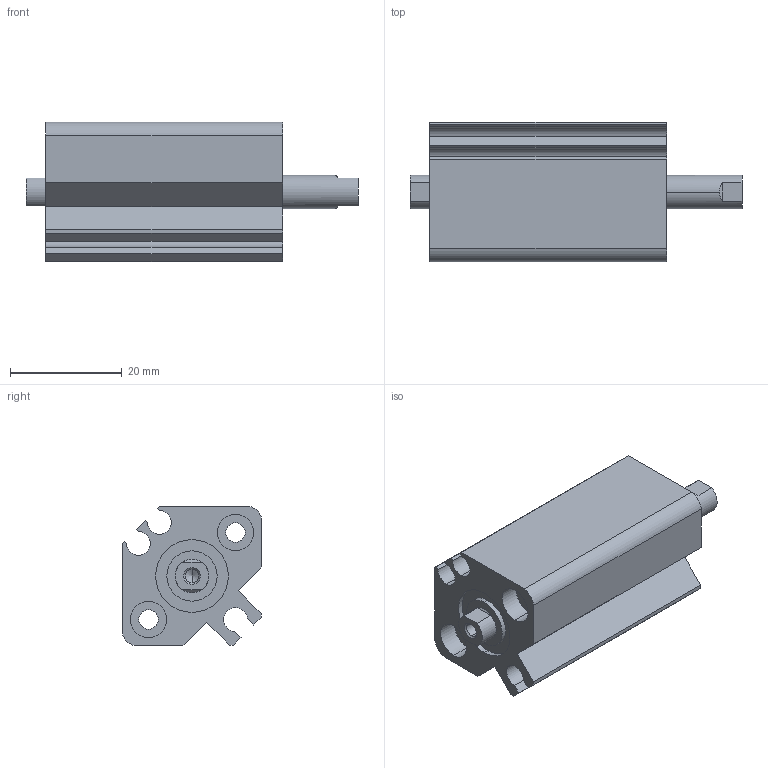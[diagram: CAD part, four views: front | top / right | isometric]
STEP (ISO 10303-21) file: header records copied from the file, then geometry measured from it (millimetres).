
FILE_DESCRIPTION (( 'STEP AP203' ), '1' );
FILE_NAME ('CCMB12-10F-P.STEP', '2020-08-05T11:01:06', ( '' ), ( '' ), 'SwSTEP 2.0', 'SolidWorks 2019', '' );
FILE_SCHEMA (( 'CONFIG_CONTROL_DESIGN' ));
Length unit declared in the file: millimetre
Products named in the file (1): CCMB12-10F-P
Bounding box: 59.4 x 25 x 25 mm (x, y, z)
Volume: 19453.9 mm3; surface area: 10550.9 mm2
Topology: 2 solids, 2 shells, 109 faces, 261 edges, 168 vertices
Faces by surface type: cylinder 50, plane 47, cone 12
Entity records: 3246 total; most frequent: DIRECTION 577, CARTESIAN_POINT 559, ORIENTED_EDGE 514, EDGE_CURVE 257, AXIS2_PLACEMENT_3D 218, VERTEX_POINT 168, LINE 141, VECTOR 141
